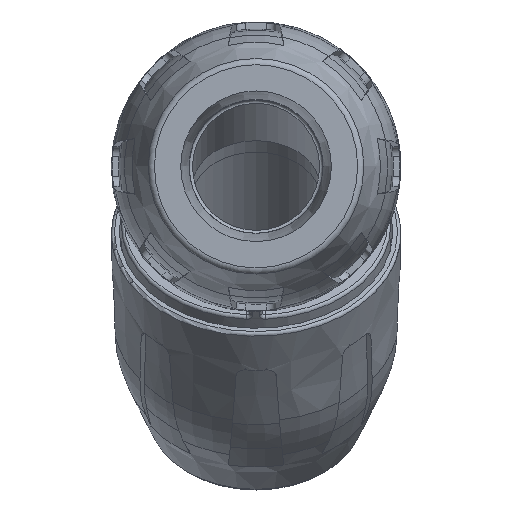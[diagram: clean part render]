
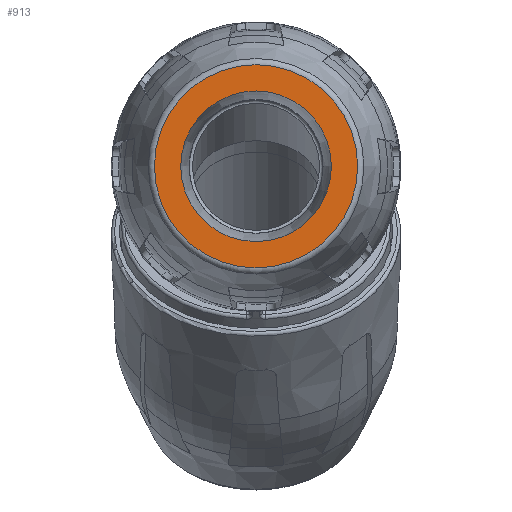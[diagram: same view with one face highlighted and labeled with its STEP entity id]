
A CAD part, top view. The second image highlights one B-rep face of the part: STEP entity #913.
In plain terms, the highlighted planar face has unit normal (0, 0, 1).
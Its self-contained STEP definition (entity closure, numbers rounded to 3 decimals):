
#913 = ADVANCED_FACE( '', ( #2201, #2202 ), #2203, .F. );
#2201 = FACE_BOUND( '', #5335, .T. );
#2202 = FACE_OUTER_BOUND( '', #5336, .T. );
#2203 = PLANE( '', #5337 );
#5335 = EDGE_LOOP( '', ( #10129 ) );
#5336 = EDGE_LOOP( '', ( #10130 ) );
#5337 = AXIS2_PLACEMENT_3D( '', #10131, #10132, #10133 );
#10129 = ORIENTED_EDGE( '', *, *, #14231, .T. );
#10130 = ORIENTED_EDGE( '', *, *, #14232, .T. );
#10131 = CARTESIAN_POINT( '', ( 16.304, 0., 14.784 ) );
#10132 = DIRECTION( '', ( 0., 0., -1. ) );
#10133 = DIRECTION( '', ( 1., 0., 0. ) );
#14231 = EDGE_CURVE( '', #16623, #16623, #16624, .T. );
#14232 = EDGE_CURVE( '', #16625, #16625, #16626, .F. );
#16623 = VERTEX_POINT( '', #21070 );
#16624 = CIRCLE( '', #21071, 11.556 );
#16625 = VERTEX_POINT( '', #21072 );
#16626 = CIRCLE( '', #21073, 15.591 );
#21070 = CARTESIAN_POINT( '', ( -11.556, 0., 14.784 ) );
#21071 = AXIS2_PLACEMENT_3D( '', #25329, #25330, #25331 );
#21072 = CARTESIAN_POINT( '', ( -15.591, 0., 14.784 ) );
#21073 = AXIS2_PLACEMENT_3D( '', #25332, #25333, #25334 );
#25329 = CARTESIAN_POINT( '', ( 0., 0., 14.784 ) );
#25330 = DIRECTION( '', ( 0., 0., -1. ) );
#25331 = DIRECTION( '', ( -1., 0., 0. ) );
#25332 = CARTESIAN_POINT( '', ( 0., 0., 14.784 ) );
#25333 = DIRECTION( '', ( 0., 0., -1. ) );
#25334 = DIRECTION( '', ( -1., 0., 0. ) );
